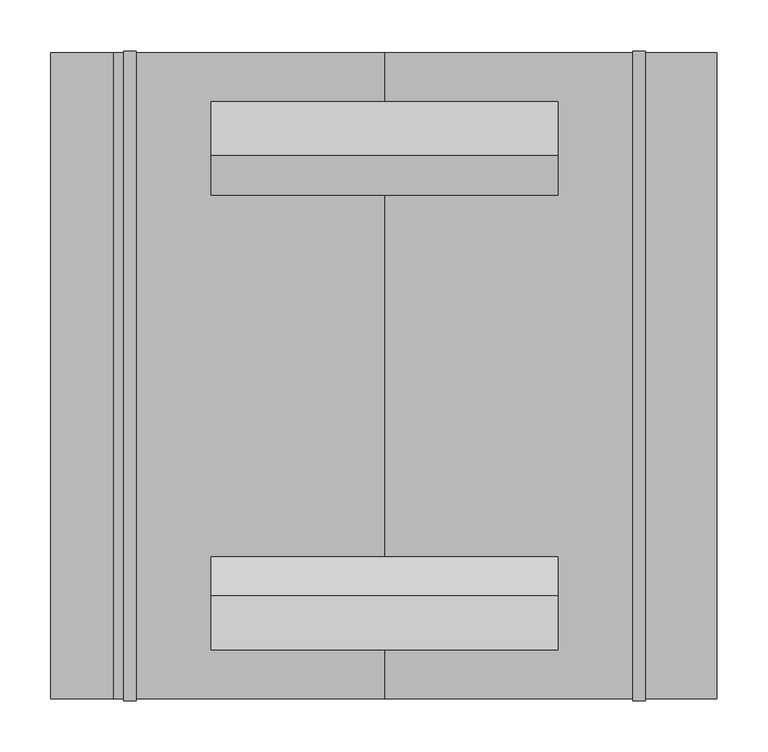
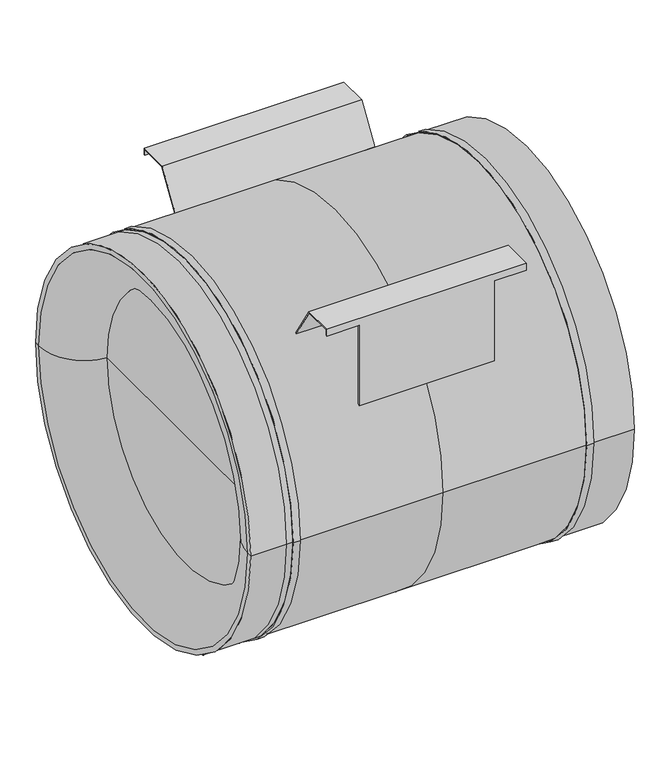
"""IFC4 building model written with IfcOpenShell, lengths in millimetres: unitary equipment geometry, VE-Wentylator-ParaForma-Harmann-JETTEC-Nawiewny : 630/16300F."""

from ifc_helpers import new_model, si_unit, point, frame, frame_2d, origin, place, context, project, spatial, polyline, circle_curve, ellipse_curve, trimmed, segment, composite_curve, outline, extrude, source, transform, mapped, element, save
from ifc_brep_helpers import plane_surface, cylinder_surface, revolved_surface, advanced_brep


def unitary_equipment_7df76545(model_context):
    return source(origin(), model_context, "Body", "SolidModel", [
        extrude(outline(composite_curve([segment(polyline([(-45.5, -47.7), (-45.5, 47.7)]), True, "CONTINUOUS"), segment(trimmed(circle_curve(frame_2d((-40.5, 47.7)), 5.0), [point((-45.5, 47.7))], [point((-40.5, 52.7))], False, "CARTESIAN"), True, "CONTINUOUS"), segment(polyline([(-40.5, 52.7), (40.5, 52.7)]), True, "CONTINUOUS"), segment(trimmed(circle_curve(frame_2d((40.5, 47.7)), 5.0), [point((40.5, 52.7))], [point((45.5, 47.7))], False, "CARTESIAN"), True, "CONTINUOUS"), segment(polyline([(45.5, 47.7), (45.5, -47.7)]), True, "CONTINUOUS"), segment(trimmed(circle_curve(frame_2d((40.5, -47.7)), 5.0), [point((45.5, -47.7))], [point((40.5, -52.7))], False, "CARTESIAN"), True, "CONTINUOUS"), segment(polyline([(40.5, -52.7), (-40.5, -52.7)]), True, "CONTINUOUS"), segment(trimmed(circle_curve(frame_2d((-40.5, -47.7)), 5.0), [point((-40.5, -52.7))], [point((-45.5, -47.7))], False, "CARTESIAN"), True, "CONTINUOUS")], self_intersect=False)), frame((0.0, -55.0, 0.0), z_axis=(0.0, 1.0, 0.0), x_axis=(0.0, 0.0, 1.0)), (0.0, 0.0, 1.0), 45.0),
        advanced_brep(
        [(170.0, 269.2, 312.2), (170.0, 269.2, 324.2), (170.0, 216.1, 324.2), (170.0, 177.6331917, 262.7970495), (170.0, 179.2878179, 261.6710117), (170.0, 217.2071194, 322.2), (170.0, 267.2, 322.2), (170.0, 267.2, 312.2), (115.0, 267.2, 312.2), (115.0, 269.2, 312.2), (-170.0, 267.2, 322.2), (-170.0, 267.2, 312.2), (-115.0, 267.2, 312.2), (-115.0, 267.2, 170.9385855), (115.0, 267.2, 170.9385855), (-170.0, 217.2071194, 322.2), (115.0, 179.2878179, 261.6710117), (-115.0, 179.2878179, 261.6710117), (-170.0, 179.2878179, 261.6710117), (-170.0, 216.1, 324.2), (-170.0, 177.6331917, 262.7970495), (-115.0, 177.6331917, 262.7970495), (115.0, 177.6331917, 262.7970495), (-170.0, 269.2, 324.2), (115.0, 269.2, 167.7712729), (-115.0, 269.2, 167.7712729), (-115.0, 269.2, 312.2), (-170.0, 269.2, 312.2)],
        [
            (0, 1),
            (1, 2),
            (2, 3),
            (3, 4, circle_curve(frame((170.0, 0.0, 0.0), z_axis=(-1.0, 0.0, 0.0), x_axis=(0.0, 1.0, 0.0)), 317.2)),
            (4, 5),
            (5, 6),
            (6, 7),
            (7, 0),
            (7, 8),
            (8, 9),
            (9, 0),
            (6, 10),
            (10, 11),
            (11, 12),
            (12, 13),
            (13, 14),
            (14, 8),
            (5, 15),
            (15, 10),
            (4, 16),
            (16, 17),
            (17, 18),
            (18, 15),
            (19, 20),
            (20, 21),
            (21, 22),
            (22, 3),
            (2, 19),
            (1, 23),
            (23, 19),
            (9, 24),
            (24, 25),
            (25, 26),
            (26, 27),
            (27, 23),
            (20, 18, circle_curve(frame((-170.0, 0.0, 0.0), z_axis=(-1.0, 0.0, 0.0), x_axis=(0.0, 1.0, 0.0)), 317.2)),
            (17, 21, circle_curve(frame((-115.0, 0.0, 0.0), z_axis=(1.0, 0.0, 0.0), x_axis=(0.0, 1.0, 0.0)), 317.2)),
            (22, 16, circle_curve(frame((115.0, 0.0, 0.0), z_axis=(-1.0, 0.0, 0.0), x_axis=(0.0, 1.0, 0.0)), 317.2)),
            (25, 13, circle_curve(frame((-115.0, 0.0, 0.0), z_axis=(1.0, 0.0, 0.0), x_axis=(0.0, 1.0, 0.0)), 317.2)),
            (12, 26),
            (14, 24, circle_curve(frame((115.0, 0.0, 0.0), z_axis=(-1.0, 0.0, 0.0), x_axis=(0.0, 1.0, 0.0)), 317.2)),
            (27, 11),
        ],
        [
            plane_surface(frame((170.0, 0.0, 0.0), z_axis=(1.0, 0.0, 0.0), x_axis=(0.0, 0.0, 1.0))),
            plane_surface(frame((115.0, 269.2, 312.2), z_axis=(0.0, 0.0, -1.0), x_axis=(1.0, 0.0, 0.0))),
            plane_surface(frame((115.0, 267.2, 312.2), z_axis=(0.0, -1.0, 0.0), x_axis=(1.0, 0.0, 0.0))),
            plane_surface(frame((115.0, 267.2, 322.2), z_axis=(0.0, 0.0, -1.0), x_axis=(1.0, 0.0, 0.0))),
            plane_surface(frame((115.0, 217.2071194, 322.2), z_axis=(0.0, 0.8474398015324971, -0.5308914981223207), x_axis=(1.0, 0.0, 0.0))),
            plane_surface(frame((115.0, 13.0, 0.0), z_axis=(0.0, -0.8474398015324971, 0.5308914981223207), x_axis=(1.0, 0.0, 0.0))),
            plane_surface(frame((115.0, 216.1, 324.2), z_axis=(0.0, 0.0, 1.0), x_axis=(1.0, 0.0, 0.0))),
            plane_surface(frame((115.0, 269.2, 324.2), z_axis=(0.0, 1.0, 0.0), x_axis=(1.0, 0.0, 0.0))),
            revolved_surface(polyline([(-170.0, 317.2, 0.0), (-115.0, 317.2, 0.0)]), (-170.0, 0.0, 0.0), (-1.0, 0.0, 0.0)),
            revolved_surface(polyline([(115.0, 317.2, 0.0), (170.0, 317.2, 0.0)]), (115.0, 0.0, 0.0), (-1.0, 0.0, 0.0)),
            plane_surface(frame((-115.0, 0.0, 0.0), z_axis=(-1.0, 0.0, 0.0), x_axis=(0.0, 0.0, 1.0))),
            plane_surface(frame((115.0, 0.0, 0.0), z_axis=(1.0, 0.0, 0.0), x_axis=(0.0, 0.0, 1.0))),
            revolved_surface(polyline([(-115.0, 317.2, 0.0), (115.0, 317.2, 0.0)]), (-115.0, 0.0, 0.0), (-1.0, 0.0, 0.0)),
            plane_surface(frame((-170.0, 0.0, 0.0), z_axis=(-1.0, 0.0, 0.0), x_axis=(0.0, 0.0, 1.0))),
            plane_surface(frame((-170.0, 269.2, 312.2), z_axis=(0.0, 0.0, -1.0), x_axis=(1.0, 0.0, 0.0))),
        ],
        [
            (0, [[1, 2, 3, 4, 5, 6, 7, 8]]),
            (1, [[-8, 9, 10, 11]]),
            (2, [[-7, 12, 13, 14, 15, 16, 17, -9]]),
            (3, [[-12, -6, 18, 19]]),
            (4, [[-18, -5, 20, 21, 22, 23]]),
            (5, [[24, 25, 26, 27, -3, 28]]),
            (6, [[-28, -2, 29, 30]]),
            (7, [[-29, -1, -11, 31, 32, 33, 34, 35]]),
            (8, [[36, -22, 37, -25]]),
            (9, [[-4, -27, 38, -20]]),
            (10, [[39, -15, 40, -33]]),
            (11, [[41, -31, -10, -17]]),
            (12, [[-21, -38, -26, -37]]),
            (12, [[-39, -32, -41, -16]]),
            (13, [[42, -13, -19, -23, -36, -24, -30, -35]]),
            (14, [[-42, -34, -40, -14]]),
        ],
    ),
        advanced_brep(
        [(170.0, -216.1, 324.2), (170.0, -269.2, 324.2), (170.0, -269.2, 312.2), (170.0, -267.2, 312.2), (170.0, -267.2, 322.2), (170.0, -217.2071194, 322.2), (170.0, -179.2878179, 261.6710117), (170.0, -177.6331917, 262.7970495), (-170.0, -217.2071194, 322.2), (-170.0, -179.2878179, 261.6710117), (-115.0, -179.2878179, 261.6710117), (115.0, -179.2878179, 261.6710117), (-170.0, -267.2, 322.2), (115.0, -267.2, 312.2), (115.0, -267.2, 170.9385855), (-115.0, -267.2, 170.9385855), (-115.0, -267.2, 312.2), (-170.0, -267.2, 312.2), (115.0, -269.2, 312.2), (-170.0, -269.2, 324.2), (-170.0, -269.2, 312.2), (-115.0, -269.2, 312.2), (-115.0, -269.2, 167.7712729), (115.0, -269.2, 167.7712729), (-170.0, -216.1, 324.2), (115.0, -177.6331917, 262.7970495), (-115.0, -177.6331917, 262.7970495), (-170.0, -177.6331917, 262.7970495)],
        [
            (0, 1),
            (1, 2),
            (2, 3),
            (3, 4),
            (4, 5),
            (5, 6),
            (6, 7, circle_curve(frame((170.0, 0.0, 0.0), z_axis=(-1.0, 0.0, 0.0), x_axis=(0.0, 1.0, 0.0)), 317.2)),
            (7, 0),
            (8, 9),
            (9, 10),
            (10, 11),
            (11, 6),
            (5, 8),
            (4, 12),
            (12, 8),
            (3, 13),
            (13, 14),
            (14, 15),
            (15, 16),
            (16, 17),
            (17, 12),
            (2, 18),
            (18, 13),
            (1, 19),
            (19, 20),
            (20, 21),
            (21, 22),
            (22, 23),
            (23, 18),
            (0, 24),
            (24, 19),
            (7, 25),
            (25, 26),
            (26, 27),
            (27, 24),
            (9, 27, circle_curve(frame((-170.0, 0.0, 0.0), z_axis=(-1.0, 0.0, 0.0), x_axis=(0.0, 1.0, 0.0)), 317.2)),
            (26, 10, circle_curve(frame((-115.0, 0.0, 0.0), z_axis=(1.0, 0.0, 0.0), x_axis=(0.0, 1.0, 0.0)), 317.2)),
            (11, 25, circle_curve(frame((115.0, 0.0, 0.0), z_axis=(-1.0, 0.0, 0.0), x_axis=(0.0, 1.0, 0.0)), 317.2)),
            (15, 22, circle_curve(frame((-115.0, 0.0, 0.0), z_axis=(1.0, 0.0, 0.0), x_axis=(0.0, 1.0, 0.0)), 317.2)),
            (21, 16),
            (23, 14, circle_curve(frame((115.0, 0.0, 0.0), z_axis=(-1.0, 0.0, 0.0), x_axis=(0.0, 1.0, 0.0)), 317.2)),
            (17, 20),
        ],
        [
            plane_surface(frame((170.0, 0.0, 0.0), z_axis=(1.0, 0.0, 0.0), x_axis=(0.0, 0.0, 1.0))),
            plane_surface(frame((115.0, -14.1071194, -2.0), z_axis=(0.0, -0.8474398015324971, -0.5308914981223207), x_axis=(1.0, 0.0, 0.0))),
            plane_surface(frame((115.0, -217.2071194, 322.2), z_axis=(0.0, 0.0, -1.0), x_axis=(1.0, 0.0, 0.0))),
            plane_surface(frame((115.0, -267.2, 322.2), z_axis=(0.0, 1.0, 0.0), x_axis=(1.0, 0.0, 0.0))),
            plane_surface(frame((115.0, -267.2, 312.2), z_axis=(0.0, 0.0, -1.0), x_axis=(1.0, 0.0, 0.0))),
            plane_surface(frame((115.0, -269.2, 312.2), z_axis=(0.0, -1.0, 0.0), x_axis=(1.0, 0.0, 0.0))),
            plane_surface(frame((115.0, -269.2, 324.2), z_axis=(0.0, 0.0, 1.0), x_axis=(1.0, 0.0, 0.0))),
            plane_surface(frame((115.0, -216.1, 324.2), z_axis=(0.0, 0.8474398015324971, 0.5308914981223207), x_axis=(1.0, 0.0, 0.0))),
            revolved_surface(polyline([(-170.0, 317.2, 0.0), (-115.0, 317.2, 0.0)]), (-170.0, 0.0, 0.0), (-1.0, 0.0, 0.0)),
            revolved_surface(polyline([(115.0, 317.2, 0.0), (170.0, 317.2, 0.0)]), (115.0, 0.0, 0.0), (-1.0, 0.0, 0.0)),
            plane_surface(frame((-115.0, 0.0, 0.0), z_axis=(-1.0, 0.0, 0.0), x_axis=(0.0, 0.0, 1.0))),
            plane_surface(frame((115.0, 0.0, 0.0), z_axis=(1.0, 0.0, 0.0), x_axis=(0.0, 0.0, 1.0))),
            revolved_surface(polyline([(-115.0, 317.2, 0.0), (115.0, 317.2, 0.0)]), (-115.0, 0.0, 0.0), (-1.0, 0.0, 0.0)),
            plane_surface(frame((-170.0, 0.0, 0.0), z_axis=(-1.0, 0.0, 0.0), x_axis=(0.0, 0.0, 1.0))),
            plane_surface(frame((-170.0, -267.2, 312.2), z_axis=(0.0, 0.0, -1.0), x_axis=(1.0, 0.0, 0.0))),
        ],
        [
            (0, [[1, 2, 3, 4, 5, 6, 7, 8]]),
            (1, [[9, 10, 11, 12, -6, 13]]),
            (2, [[-13, -5, 14, 15]]),
            (3, [[-14, -4, 16, 17, 18, 19, 20, 21]]),
            (4, [[-3, 22, 23, -16]]),
            (5, [[-2, 24, 25, 26, 27, 28, 29, -22]]),
            (6, [[-24, -1, 30, 31]]),
            (7, [[-30, -8, 32, 33, 34, 35]]),
            (8, [[36, -34, 37, -10]]),
            (9, [[-7, -12, 38, -32]]),
            (10, [[39, -27, 40, -19]]),
            (11, [[41, -17, -23, -29]]),
            (12, [[-11, -37, -33, -38]]),
            (12, [[-39, -18, -41, -28]]),
            (13, [[-15, -21, 42, -25, -31, -35, -36, -9]]),
            (14, [[-42, -20, -40, -26]]),
        ],
    ),
        advanced_brep(
        [(0.0, 317.2, 0.0), (0.0, -317.2, 0.0), (-244.0, -317.2, 0.0), (-244.0, 317.2, 0.0), (-265.9, -317.2, 0.0), (-265.9, 317.2, 0.0), (-256.0, 317.2, 0.0), (-256.0, -317.2, 0.0), (-327.5, -317.2, 0.0), (-327.5, 317.2, 0.0), (-327.5, -308.5, 0.0), (-327.5, 308.5, 0.0), (-256.0, -230.3127248, 0.0), (-256.0, 230.3127248, 0.0), (326.0, -317.2, 0.0), (326.0, 317.2, 0.0), (326.0, 0.0, 0.0), (256.0, -317.2, 0.0), (256.0, 317.2, 0.0), (244.0, 317.2, 0.0), (244.0, -317.2, 0.0), (-244.0, -319.0, 0.0), (-244.0, 319.0, 0.0), (-256.0, -319.0, 0.0), (-256.0, 319.0, 0.0), (-256.0, 0.0, 0.0), (256.0, -319.0, 0.0), (256.0, 319.0, 0.0), (244.0, -319.0, 0.0), (244.0, 319.0, 0.0)],
        [
            (0, 1, circle_curve(frame((0.0, 0.0, 0.0), z_axis=(-1.0, 0.0, 0.0), x_axis=(0.0, 1.0, 0.0)), 317.2)),
            (1, 2),
            (2, 3, circle_curve(frame((-244.0, 0.0, 0.0), z_axis=(1.0, 0.0, 0.0), x_axis=(0.0, 1.0, 0.0)), 317.2)),
            (3, 0),
            (1, 0, circle_curve(frame((0.0, 0.0, 0.0), z_axis=(-1.0, 0.0, 0.0), x_axis=(0.0, 1.0, 0.0)), 317.2)),
            (3, 2, circle_curve(frame((-244.0, 0.0, 0.0), z_axis=(1.0, 0.0, 0.0), x_axis=(0.0, 1.0, 0.0)), 317.2)),
            (4, 5, circle_curve(frame((-265.9, 0.0, 0.0), z_axis=(1.0, 0.0, 0.0), x_axis=(0.0, 1.0, 0.0)), 317.2)),
            (5, 6),
            (6, 7, circle_curve(frame((-256.0, 0.0, 0.0), z_axis=(-1.0, 0.0, 0.0), x_axis=(0.0, 1.0, 0.0)), 317.2)),
            (7, 4),
            (5, 4, circle_curve(frame((-265.9, 0.0, 0.0), z_axis=(1.0, 0.0, 0.0), x_axis=(0.0, 1.0, 0.0)), 317.2)),
            (7, 6, circle_curve(frame((-256.0, 0.0, 0.0), z_axis=(-1.0, 0.0, 0.0), x_axis=(0.0, 1.0, 0.0)), 317.2)),
            (4, 8),
            (8, 9, circle_curve(frame((-327.5, 0.0, 0.0), z_axis=(1.0, 0.0, 0.0), x_axis=(0.0, 1.0, 0.0)), 317.2)),
            (9, 5),
            (9, 8, circle_curve(frame((-327.5, 0.0, 0.0), z_axis=(1.0, 0.0, 0.0), x_axis=(0.0, 1.0, 0.0)), 317.2)),
            (8, 10),
            (10, 11, circle_curve(frame((-327.5, 0.0, 0.0), z_axis=(1.0, 0.0, 0.0), x_axis=(0.0, 1.0, 0.0)), 308.5)),
            (11, 9),
            (11, 10, circle_curve(frame((-327.5, 0.0, 0.0), z_axis=(1.0, 0.0, 0.0), x_axis=(0.0, 1.0, 0.0)), 308.5)),
            (10, 12, circle_curve(frame((-249.0, -308.5, 0.0), z_axis=(0.0, 0.0, -1.0), x_axis=(1.0, 0.0, 0.0)), 78.5)),
            (12, 13, circle_curve(frame((-256.0, 0.0, 0.0), z_axis=(1.0, 0.0, 0.0), x_axis=(0.0, 1.0, 0.0)), 230.3127248)),
            (13, 11, circle_curve(frame((-249.0, 308.5, 0.0), z_axis=(0.0, 0.0, -1.0), x_axis=(1.0, 0.0, 0.0)), 78.5)),
            (13, 12, circle_curve(frame((-256.0, 0.0, 0.0), z_axis=(1.0, 0.0, 0.0), x_axis=(0.0, 1.0, 0.0)), 230.3127248)),
            (14, 15, circle_curve(frame((326.0, 0.0, 0.0), z_axis=(1.0, 0.0, 0.0), x_axis=(0.0, 1.0, 0.0)), 317.2)),
            (15, 16),
            (16, 14),
            (15, 14, circle_curve(frame((326.0, 0.0, 0.0), z_axis=(1.0, 0.0, 0.0), x_axis=(0.0, 1.0, 0.0)), 317.2)),
            (14, 17),
            (17, 18, circle_curve(frame((256.0, 0.0, 0.0), z_axis=(1.0, 0.0, 0.0), x_axis=(0.0, 1.0, 0.0)), 317.2)),
            (18, 15),
            (18, 17, circle_curve(frame((256.0, 0.0, 0.0), z_axis=(1.0, 0.0, 0.0), x_axis=(0.0, 1.0, 0.0)), 317.2)),
            (0, 19),
            (19, 20, circle_curve(frame((244.0, 0.0, 0.0), z_axis=(-1.0, 0.0, 0.0), x_axis=(0.0, 1.0, 0.0)), 317.2)),
            (20, 1),
            (20, 19, circle_curve(frame((244.0, 0.0, 0.0), z_axis=(-1.0, 0.0, 0.0), x_axis=(0.0, 1.0, 0.0)), 317.2)),
            (21, 22, circle_curve(frame((-244.0, 0.0, 0.0), z_axis=(1.0, 0.0, 0.0), x_axis=(0.0, 1.0, 0.0)), 319.0)),
            (22, 3),
            (2, 21),
            (22, 21, circle_curve(frame((-244.0, 0.0, 0.0), z_axis=(1.0, 0.0, 0.0), x_axis=(0.0, 1.0, 0.0)), 319.0)),
            (21, 23),
            (23, 24, circle_curve(frame((-256.0, 0.0, 0.0), z_axis=(1.0, 0.0, 0.0), x_axis=(0.0, 1.0, 0.0)), 319.0)),
            (24, 22),
            (24, 23, circle_curve(frame((-256.0, 0.0, 0.0), z_axis=(1.0, 0.0, 0.0), x_axis=(0.0, 1.0, 0.0)), 319.0)),
            (23, 7),
            (6, 24),
            (12, 25),
            (25, 13),
            (26, 27, circle_curve(frame((256.0, 0.0, 0.0), z_axis=(1.0, 0.0, 0.0), x_axis=(0.0, 1.0, 0.0)), 319.0)),
            (27, 18),
            (17, 26),
            (27, 26, circle_curve(frame((256.0, 0.0, 0.0), z_axis=(1.0, 0.0, 0.0), x_axis=(0.0, 1.0, 0.0)), 319.0)),
            (26, 28),
            (28, 29, circle_curve(frame((244.0, 0.0, 0.0), z_axis=(1.0, 0.0, 0.0), x_axis=(0.0, 1.0, 0.0)), 319.0)),
            (29, 27),
            (29, 28, circle_curve(frame((244.0, 0.0, 0.0), z_axis=(1.0, 0.0, 0.0), x_axis=(0.0, 1.0, 0.0)), 319.0)),
            (28, 20),
            (19, 29),
        ],
        [
            cylinder_surface(frame((-249.0, 0.0, 0.0), z_axis=(-1.0, 0.0, 0.0), x_axis=(0.0, 1.0, 0.0)), 317.2),
            plane_surface(frame((-327.5, 0.0, 0.0), z_axis=(-1.0, 0.0, 0.0), x_axis=(0.0, 1.0, 0.0))),
            revolved_surface(trimmed(ellipse_curve(frame((-249.0, 308.5, 0.0), z_axis=(0.0, 0.0, 1.0), x_axis=(1.0, 0.0, 0.0)), 78.5, 78.5), [point((-327.5, 308.5, 0.0))], [point((-249.0, 230.0, 0.0))], True, "CARTESIAN"), (-249.0, 0.0, 0.0), (-1.0, 0.0, 0.0)),
            plane_surface(frame((326.0, 0.0, 0.0), z_axis=(1.0, 0.0, 0.0), x_axis=(0.0, 1.0, 0.0))),
            cylinder_surface(frame((0.0, 0.0, 0.0), z_axis=(-1.0, 0.0, 0.0), x_axis=(0.0, 1.0, 0.0)), 317.2),
            plane_surface(frame((-244.0, 0.0, 0.0), z_axis=(1.0, 0.0, 0.0), x_axis=(0.0, 1.0, 0.0))),
            cylinder_surface(frame((-256.0, 0.0, 0.0), z_axis=(-1.0, 0.0, 0.0), x_axis=(0.0, 1.0, 0.0)), 319.0),
            plane_surface(frame((-256.0, 0.0, 0.0), z_axis=(-1.0, 0.0, 0.0), x_axis=(0.0, 1.0, 0.0))),
            plane_surface(frame((256.0, 0.0, 0.0), z_axis=(1.0, 0.0, 0.0), x_axis=(0.0, 1.0, 0.0))),
            plane_surface(frame((244.0, 0.0, 0.0), z_axis=(-1.0, 0.0, 0.0), x_axis=(0.0, 1.0, 0.0))),
        ],
        [
            (0, [[1, 2, 3, 4]]),
            (0, [[5, -4, 6, -2]]),
            (0, [[7, 8, 9, 10]]),
            (0, [[-8, 11, -10, 12]]),
            (0, [[-7, 13, 14, 15]]),
            (0, [[-11, -15, 16, -13]]),
            (1, [[-14, 17, 18, 19]]),
            (1, [[-16, -19, 20, -17]]),
            (2, [[-18, 21, 22, 23]]),
            (2, [[-20, -23, 24, -21]]),
            (3, [[25, 26, 27]]),
            (3, [[-26, 28, -27]]),
            (4, [[-25, 29, 30, 31]]),
            (4, [[-28, -31, 32, -29]]),
            (4, [[33, 34, 35, -1]]),
            (4, [[-33, -5, -35, 36]]),
            (5, [[37, 38, -3, 39]]),
            (5, [[40, -39, -6, -38]]),
            (6, [[-37, 41, 42, 43]]),
            (6, [[-40, -43, 44, -41]]),
            (7, [[-42, 45, -9, 46]]),
            (7, [[47, 48, -22]]),
            (7, [[-47, -24, -48]]),
            (7, [[-44, -46, -12, -45]]),
            (8, [[49, 50, -30, 51]]),
            (8, [[52, -51, -32, -50]]),
            (6, [[-49, 53, 54, 55]]),
            (6, [[-52, -55, 56, -53]]),
            (9, [[-54, 57, -34, 58]]),
            (9, [[-56, -58, -36, -57]]),
        ],
    ),
    ])


if __name__ == "__main__":
    model = new_model("IFC4")
    model_context = context("Model", 3, world=origin())
    ifc_project = project(units=[si_unit("LENGTHUNIT", "METRE", prefix="MILLI")], contexts=[model_context])
    site = spatial("IfcSite", under=ifc_project)
    building = spatial("IfcBuilding", under=site)
    placement = place(None, origin())
    unitary_equipment_shape = unitary_equipment_7df76545(model_context)
    element("IfcUnitaryEquipment", 1, ObjectType="VE-Wentylator-ParaForma-Harmann-JETTEC-Nawiewny : 630/16300F", at=placement, inside=building, context=model_context, shape_type="MappedRepresentation", body=[
        mapped(unitary_equipment_shape, transform((0.0, 0.0, 0.0), x_axis=(1.0, 0.0, 0.0), y_axis=(0.0, 1.0, 0.0), z_axis=(0.0, 0.0, 1.0))),
    ])
    save(model, "model.ifc")
